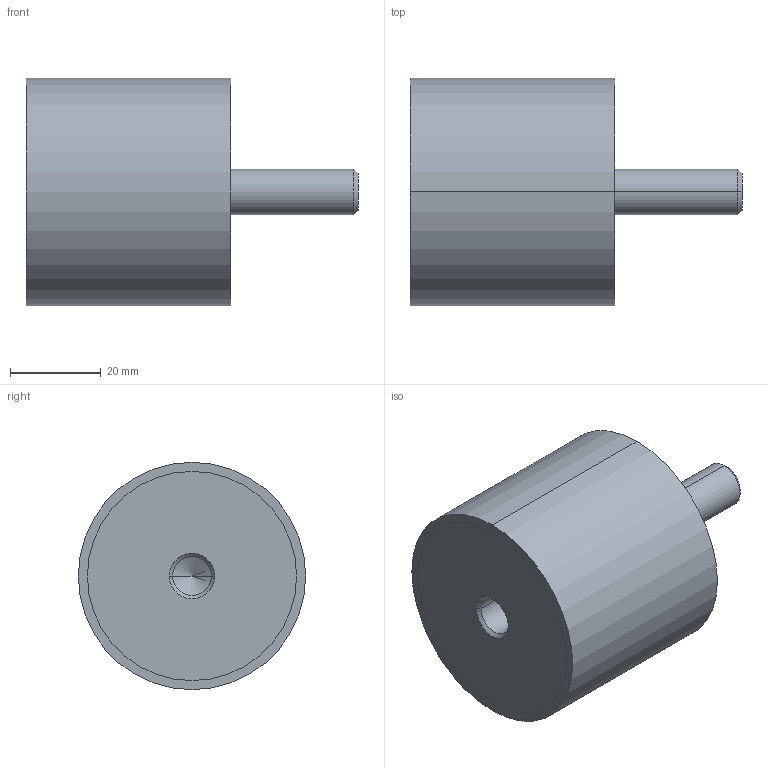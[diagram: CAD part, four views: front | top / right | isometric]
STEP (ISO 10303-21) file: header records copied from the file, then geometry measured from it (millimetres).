
FILE_DESCRIPTION (( 'STEP AP214' ), '1' );
FILE_NAME ('351-50-45-M10-ES-55.step', '2025-07-23T09:51:02', ( '' ), ( '' ), 'SwSTEP 2.0', 'SolidWorks 2022', '' );
FILE_SCHEMA (( 'AUTOMOTIVE_DESIGN' ));
Length unit declared in the file: millimetre
Products named in the file (1): 351-50-45-M10-ES-55
Bounding box: 73 x 50 x 50 mm (x, y, z)
Volume: 89823.5 mm3; surface area: 12155.8 mm2
Topology: 1 solids, 1 shells, 24 faces, 48 edges, 29 vertices
Faces by surface type: cylinder 12, cone 6, plane 6
Entity records: 740 total; most frequent: DIRECTION 124, CARTESIAN_POINT 100, ORIENTED_EDGE 92, AXIS2_PLACEMENT_3D 53, EDGE_CURVE 46, VERTEX_POINT 29, EDGE_LOOP 29, CIRCLE 28
